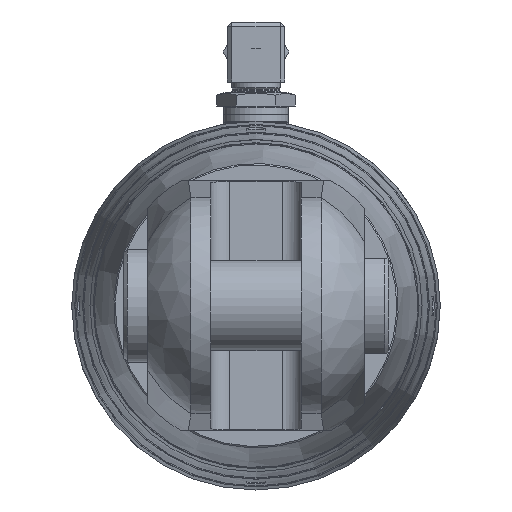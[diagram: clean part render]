
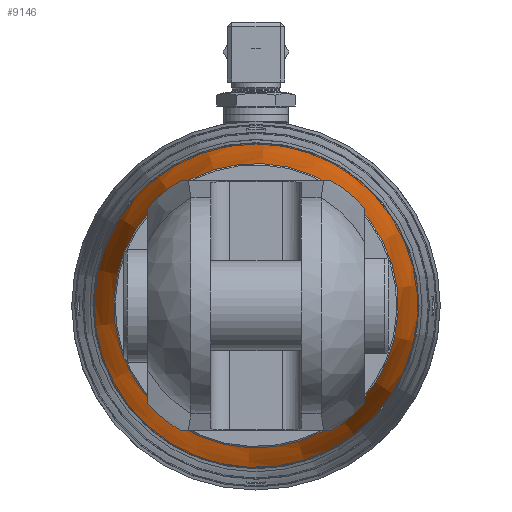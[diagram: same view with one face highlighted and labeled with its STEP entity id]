
A CAD part, left-side view. The second image highlights one B-rep face of the part: STEP entity #9146.
In plain terms, the highlighted conical face has half-angle 10 degrees and reference radius 64.279 mm.
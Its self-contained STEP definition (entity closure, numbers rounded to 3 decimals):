
#149=CONICAL_SURFACE('',#10112,64.279,0.175);
#897=LINE('',#16600,#1477);
#1477=VECTOR('',#12573,64.279);
#2823=FACE_OUTER_BOUND('',#3371,.T.);
#3371=EDGE_LOOP('',(#8506,#8507,#8508,#8509,#8510,#8511));
#3814=CIRCLE('',#10110,68.601);
#3815=CIRCLE('',#10111,68.601);
#3816=CIRCLE('',#10113,59.958);
#3817=CIRCLE('',#10114,59.958);
#4708=VERTEX_POINT('',#16590);
#4709=VERTEX_POINT('',#16591);
#4710=VERTEX_POINT('',#16596);
#4711=VERTEX_POINT('',#16597);
#5980=EDGE_CURVE('',#4708,#4709,#3814,.T.);
#5981=EDGE_CURVE('',#4709,#4708,#3815,.T.);
#5983=EDGE_CURVE('',#4710,#4711,#3816,.T.);
#5984=EDGE_CURVE('',#4711,#4710,#3817,.T.);
#5985=EDGE_CURVE('',#4711,#4709,#897,.T.);
#8506=ORIENTED_EDGE('',*,*,#5983,.F.);
#8507=ORIENTED_EDGE('',*,*,#5984,.F.);
#8508=ORIENTED_EDGE('',*,*,#5985,.T.);
#8509=ORIENTED_EDGE('',*,*,#5980,.F.);
#8510=ORIENTED_EDGE('',*,*,#5981,.F.);
#8511=ORIENTED_EDGE('',*,*,#5985,.F.);
#9146=ADVANCED_FACE('',(#2823),#149,.T.);
#10110=AXIS2_PLACEMENT_3D('',#16592,#12562,#12563);
#10111=AXIS2_PLACEMENT_3D('',#16593,#12564,#12565);
#10112=AXIS2_PLACEMENT_3D('',#16595,#12567,#12568);
#10113=AXIS2_PLACEMENT_3D('',#16598,#12569,#12570);
#10114=AXIS2_PLACEMENT_3D('',#16599,#12571,#12572);
#12562=DIRECTION('center_axis',(1.,0.,0.));
#12563=DIRECTION('ref_axis',(0.,0.605,0.796));
#12564=DIRECTION('center_axis',(1.,0.,0.));
#12565=DIRECTION('ref_axis',(0.,0.605,0.796));
#12567=DIRECTION('center_axis',(1.,0.,0.));
#12568=DIRECTION('ref_axis',(0.,-0.605,-0.796));
#12569=DIRECTION('center_axis',(-1.,0.,0.));
#12570=DIRECTION('ref_axis',(0.,0.605,0.796));
#12571=DIRECTION('center_axis',(-1.,0.,0.));
#12572=DIRECTION('ref_axis',(0.,0.605,0.796));
#12573=DIRECTION('',(0.985,0.105,0.138));
#16590=CARTESIAN_POINT('',(-1317.942,-41.528,-54.603));
#16591=CARTESIAN_POINT('',(-1317.942,41.528,54.603));
#16592=CARTESIAN_POINT('Origin',(-1317.942,0.,
0.));
#16593=CARTESIAN_POINT('Origin',(-1317.942,0.,
0.));
#16595=CARTESIAN_POINT('Origin',(-1342.45,0.,0.));
#16596=CARTESIAN_POINT('',(-1366.958,-36.296,-47.724));
#16597=CARTESIAN_POINT('',(-1366.958,36.296,47.724));
#16598=CARTESIAN_POINT('Origin',(-1366.958,0.,
0.));
#16599=CARTESIAN_POINT('Origin',(-1366.958,0.,
0.));
#16600=CARTESIAN_POINT('',(-1342.45,38.912,51.164));
